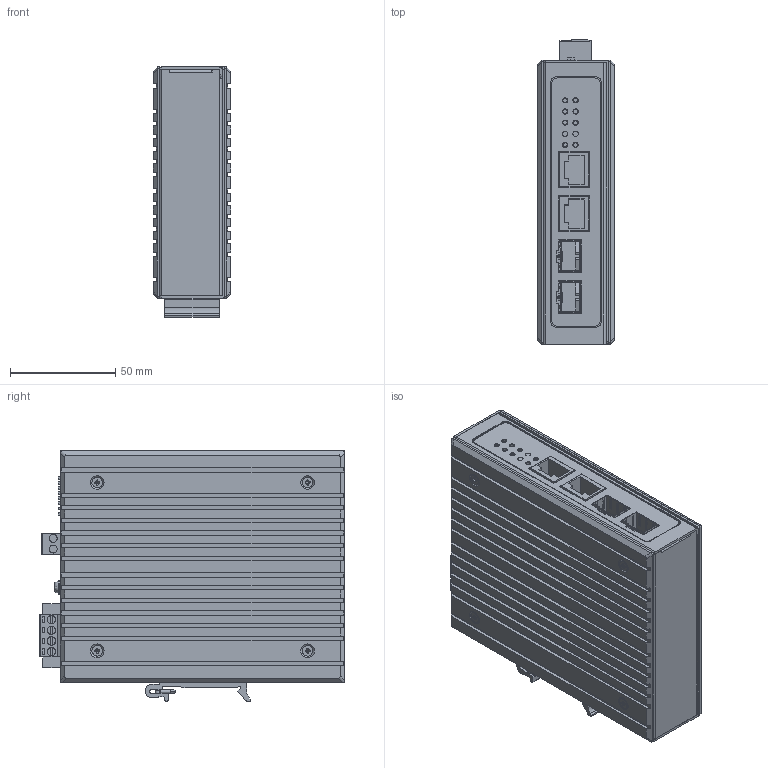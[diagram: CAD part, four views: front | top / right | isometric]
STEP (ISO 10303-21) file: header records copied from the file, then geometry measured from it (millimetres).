
FILE_DESCRIPTION(/* description */ ('STEP AP242 Edition 2','CAx-IF Rec.Pracs.---Representation and Presentation of Product Manufacturing Information (PMI)---4.0---2014-10-13','CAx-IF Rec.Pracs.---3D Tessellated Geometry---0.4---2014-09-14','2;1','CAx-IF Rec.Pracs.---User Defined Attributes---1.5---2016-08-15'),/* implementation_level */ '2;1');
FILE_NAME(/* name */ '69e1268ed61d24a4612b8160',/* time_stamp */ '2026-04-16T18:12:32Z',/* author */ (''),/* organization */ (''),/* preprocessor_version */ 'ST-DEVELOPER v20',/* originating_system */ 'ONSHAPE BY PTC INC, 1.213',/* authorisation */ ' ');
FILE_SCHEMA (('AP242_MANAGED_MODEL_BASED_3D_ENGINEERING_MIM_LF { 1 0 10303 442 3 1 4 }'));
Products named in the file (34): EMC-22G-1 - 2+2 10/100/1G Industrial Ethernet Media Converter, SFP (1
00/1G) 12-48VDC; Screw; SFP; DIN Rail Clip; DIP switch SPST 82; Mount; Ethernet; Terminal Block 4P; Terminal Block 2p; Front Label; Cover Plate; Terminal Block 2P; Housing; Nut; Ground Screw
Assembly tree (33 placements, depth 2):
  EMC-22G-1 - 2+2 10/100/1G Industrial Ethernet Media Converter, SFP (1
00/1G) 12-48VDC
    Screw
    SFP
    SFP
    DIN Rail Clip
    DIP switch SPST 82
    Mount
    Ethernet
    Terminal Block 4P
    Terminal Block 4P
    Terminal Block 2p
    DIN Rail Clip
    Screw
    Front Label
    Cover Plate
    DIN Rail Clip
    Screw
    Screw
    Terminal Block 2P
    Housing
    SFP
    Screw
    Nut
    Nut
    Screw
    Screw
    Housing
    Screw
    Screw
    Ground Screw
    Ethernet
    SFP
    Screw
    Cover Plate
Bounding box: 37 x 144.88 x 119.15 mm (x, y, z)
Volume: 144912.6 mm3; surface area: 198788 mm2
Topology: 30 solids, 37 shells, 3140 faces, 8582 edges, 5618 vertices
Faces by surface type: plane 2319, cylinder 559, bspline 164, cone 64, torus 32, sphere 2
Full cylindrical faces by diameter (mm): 0.5 x4, 0.9 x16, 1.207 x4, 1.5 x4, 1.55 x4, 1.8 x26, 2 x8, 2.02 x2, 2.4 x4, 2.5 x11, 2.8 x6, 2.88 x7, 2.9 x8, 3 x35, 3.2 x10, 3.25 x2, 3.5 x1, 3.7 x2, 3.8 x3, 3.9 x4, 4 x16, 4.8 x1, 5 x9, 6 x25
Entity records: 114728 total; most frequent: CARTESIAN_POINT 35930, ORIENTED_EDGE 16400, DIRECTION 15105, EDGE_CURVE 8203, LINE 6279, VECTOR 6279, VERTEX_POINT 5506, AXIS2_PLACEMENT_3D 4413
